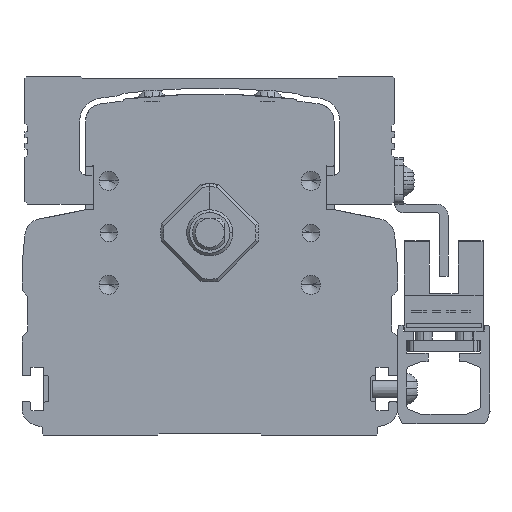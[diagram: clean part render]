
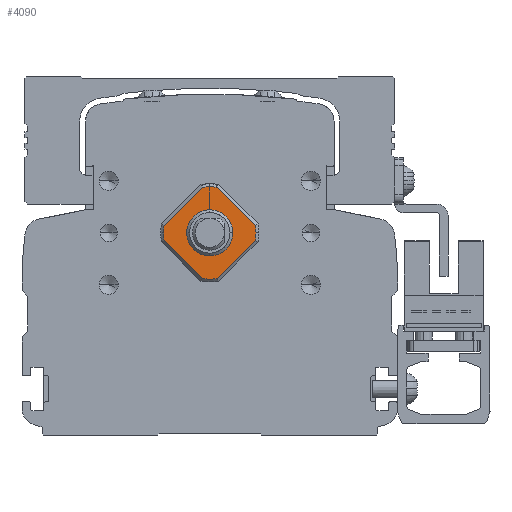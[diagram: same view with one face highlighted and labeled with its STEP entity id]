
A CAD part, front view. The second image highlights one B-rep face of the part: STEP entity #4090.
In plain terms, the highlighted planar face has unit normal (0, -1, 0).
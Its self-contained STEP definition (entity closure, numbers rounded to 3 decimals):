
#4090=ADVANCED_FACE('',(#9382,#9383),#9384,.T.);
#9382=FACE_OUTER_BOUND('',#16776,.T.);
#9383=FACE_BOUND('',#16777,.T.);
#9384=PLANE('',#16778);
#16776=EDGE_LOOP('',(#27830,#27831,#27832,#27833,#27834,#27835,#27836,#27837,#27838,#27839));
#16777=EDGE_LOOP('',(#27840,#27841));
#16778=AXIS2_PLACEMENT_3D('',#27842,#27843,#27844);
#27830=ORIENTED_EDGE('',*,*,#45012,.T.);
#27831=ORIENTED_EDGE('',*,*,#45013,.T.);
#27832=ORIENTED_EDGE('',*,*,#45014,.T.);
#27833=ORIENTED_EDGE('',*,*,#44545,.T.);
#27834=ORIENTED_EDGE('',*,*,#45015,.T.);
#27835=ORIENTED_EDGE('',*,*,#45016,.T.);
#27836=ORIENTED_EDGE('',*,*,#45017,.T.);
#27837=ORIENTED_EDGE('',*,*,#43904,.T.);
#27838=ORIENTED_EDGE('',*,*,#45018,.T.);
#27839=ORIENTED_EDGE('',*,*,#45019,.T.);
#27840=ORIENTED_EDGE('',*,*,#45020,.T.);
#27841=ORIENTED_EDGE('',*,*,#44386,.T.);
#27842=CARTESIAN_POINT('',(300.,33.,9.899));
#27843=DIRECTION('',(0.,-1.0,0.));
#27844=DIRECTION('',(1.0,0.,0.));
#43904=EDGE_CURVE('',#53481,#53479,#53482,.F.);
#44386=EDGE_CURVE('',#54262,#54259,#54263,.F.);
#44545=EDGE_CURVE('',#54511,#54516,#54518,.F.);
#45012=EDGE_CURVE('',#55229,#55230,#55231,.F.);
#45013=EDGE_CURVE('',#55230,#55232,#55233,.T.);
#45014=EDGE_CURVE('',#55232,#54511,#55234,.F.);
#45015=EDGE_CURVE('',#54516,#55235,#55236,.T.);
#45016=EDGE_CURVE('',#55235,#55237,#55238,.F.);
#45017=EDGE_CURVE('',#55237,#53481,#55239,.T.);
#45018=EDGE_CURVE('',#53479,#55240,#55241,.F.);
#45019=EDGE_CURVE('',#55240,#55229,#55242,.T.);
#45020=EDGE_CURVE('',#54259,#54262,#55243,.F.);
#53479=VERTEX_POINT('',#66603);
#53481=VERTEX_POINT('',#66606);
#53482=CIRCLE('',#66607,8.0);
#54259=VERTEX_POINT('',#67691);
#54262=VERTEX_POINT('',#67695);
#54263=CIRCLE('',#67696,4.);
#54511=VERTEX_POINT('',#68045);
#54516=VERTEX_POINT('',#68051);
#54518=CIRCLE('',#68056,8.0);
#55229=VERTEX_POINT('',#69067);
#55230=VERTEX_POINT('',#69068);
#55231=CIRCLE('',#69069,8.0);
#55232=VERTEX_POINT('',#69070);
#55233=LINE('',#69071,#69072);
#55234=CIRCLE('',#69073,8.0);
#55235=VERTEX_POINT('',#69074);
#55236=LINE('',#69075,#69076);
#55237=VERTEX_POINT('',#69077);
#55238=CIRCLE('',#69078,8.0);
#55239=LINE('',#69079,#69080);
#55240=VERTEX_POINT('',#69081);
#55241=CIRCLE('',#69082,8.0);
#55242=LINE('',#69083,#69084);
#55243=CIRCLE('',#69085,4.);
#66603=CARTESIAN_POINT('',(292.,33.,0.));
#66606=CARTESIAN_POINT('',(292.106,33.,1.298));
#66607=AXIS2_PLACEMENT_3D('',#79861,#79862,#79863);
#67691=CARTESIAN_POINT('',(304.,33.,0.));
#67695=CARTESIAN_POINT('',(296.,33.,0.));
#67696=AXIS2_PLACEMENT_3D('',#80472,#80473,#80474);
#68045=CARTESIAN_POINT('',(308.,33.,0.));
#68051=CARTESIAN_POINT('',(307.894,33.,1.298));
#68056=AXIS2_PLACEMENT_3D('',#80649,#80650,#80651);
#69067=CARTESIAN_POINT('',(298.702,33.,-7.894));
#69068=CARTESIAN_POINT('',(301.298,33.,-7.894));
#69069=AXIS2_PLACEMENT_3D('',#81187,#81188,#81189);
#69070=CARTESIAN_POINT('',(307.894,33.,-1.298));
#69071=CARTESIAN_POINT('',(301.298,33.,-7.894));
#69072=VECTOR('',#81190,1000.0);
#69073=AXIS2_PLACEMENT_3D('',#81191,#81192,#81193);
#69074=CARTESIAN_POINT('',(301.298,33.,7.894));
#69075=CARTESIAN_POINT('',(307.894,33.,1.298));
#69076=VECTOR('',#81194,1000.0);
#69077=CARTESIAN_POINT('',(298.702,33.,7.894));
#69078=AXIS2_PLACEMENT_3D('',#81195,#81196,#81197);
#69079=CARTESIAN_POINT('',(298.702,33.,7.894));
#69080=VECTOR('',#81198,1000.0);
#69081=CARTESIAN_POINT('',(292.106,33.,-1.298));
#69082=AXIS2_PLACEMENT_3D('',#81199,#81200,#81201);
#69083=CARTESIAN_POINT('',(292.106,33.,-1.298));
#69084=VECTOR('',#81202,1000.0);
#69085=AXIS2_PLACEMENT_3D('',#81203,#81204,#81205);
#79861=CARTESIAN_POINT('',(300.,33.,0.));
#79862=DIRECTION('',(0.,1.0,0.));
#79863=DIRECTION('',(-1.0,0.,0.));
#80472=CARTESIAN_POINT('',(300.,33.,0.));
#80473=DIRECTION('',(0.,-1.0,0.));
#80474=DIRECTION('',(1.0,0.,0.));
#80649=CARTESIAN_POINT('',(300.,33.,0.));
#80650=DIRECTION('',(0.,1.0,0.));
#80651=DIRECTION('',(-1.0,0.,0.));
#81187=CARTESIAN_POINT('',(300.,33.,0.));
#81188=DIRECTION('',(0.,1.0,0.));
#81189=DIRECTION('',(-1.0,0.,0.));
#81190=DIRECTION('',(0.707,0.,0.707));
#81191=CARTESIAN_POINT('',(300.,33.,0.));
#81192=DIRECTION('',(0.,1.0,0.));
#81193=DIRECTION('',(-1.0,0.,0.));
#81194=DIRECTION('',(-0.707,0.,0.707));
#81195=CARTESIAN_POINT('',(300.,33.,0.));
#81196=DIRECTION('',(0.,1.0,0.));
#81197=DIRECTION('',(-1.0,0.,0.));
#81198=DIRECTION('',(-0.707,0.,-0.707));
#81199=CARTESIAN_POINT('',(300.,33.,0.));
#81200=DIRECTION('',(0.,1.0,0.));
#81201=DIRECTION('',(-1.0,0.,0.));
#81202=DIRECTION('',(0.707,0.,-0.707));
#81203=CARTESIAN_POINT('',(300.,33.,0.));
#81204=DIRECTION('',(0.,-1.0,0.));
#81205=DIRECTION('',(1.0,0.,0.));
